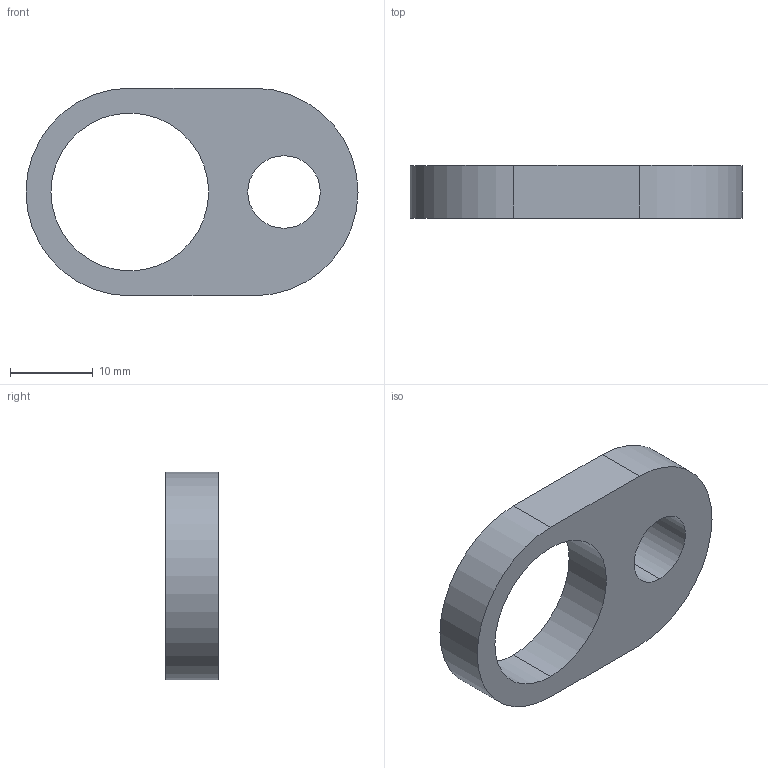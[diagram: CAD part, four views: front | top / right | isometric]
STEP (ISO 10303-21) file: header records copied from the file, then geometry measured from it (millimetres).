
FILE_DESCRIPTION (( 'STEP AP214' ), '1' );
FILE_NAME ('GasSpringClamp-A-19.stp', '2011-04-26T18:58:39', ( '' ), ( '' ), 'SwSTEP 2.0', 'SolidWorks 2010', '' );
FILE_SCHEMA (( 'AUTOMOTIVE_DESIGN' ));
Length unit declared in the file: inch
Products named in the file (1): GasSpringClamp-A-19
Bounding box: 40.01 x 6.35 x 25.02 mm (x, y, z)
Volume: 3321.6 mm3; surface area: 2288.9 mm2
Topology: 1 solids, 1 shells, 10 faces, 24 edges, 16 vertices
Faces by surface type: cylinder 6, plane 4
Entity records: 348 total; most frequent: DIRECTION 58, CARTESIAN_POINT 51, ORIENTED_EDGE 48, EDGE_CURVE 24, AXIS2_PLACEMENT_3D 23, VERTEX_POINT 16, EDGE_LOOP 14, VECTOR 12
